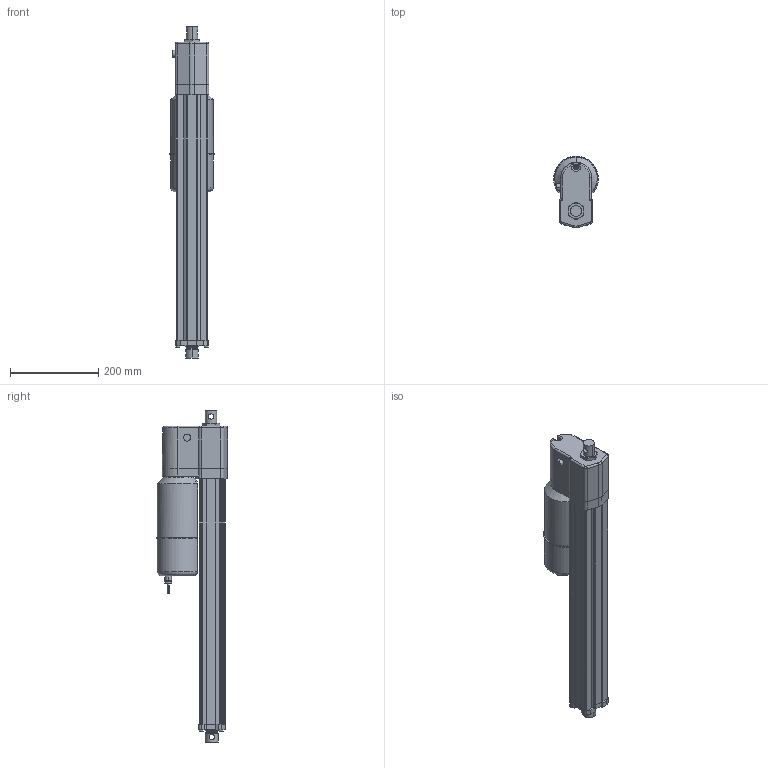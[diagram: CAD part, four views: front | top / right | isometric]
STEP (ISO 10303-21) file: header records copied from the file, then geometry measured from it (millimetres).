
FILE_DESCRIPTION (( 'STEP AP214' ), '1' );
FILE_NAME ('AA22-05B65M-40M0NPO-tollo.step', '2020-04-14T18:52:35', ( '' ), ( '' ), 'SwSTEP 2.0', 'SolidWorks 2010', '' );
FILE_SCHEMA (( 'AUTOMOTIVE_DESIGN' ));
Length unit declared in the file: millimetre
Products named in the file (8): Electrak-LA24-Motor-AA22-05B65M-40M0NPO-tollo_Electrak-LA24-Motor-AA22-05B65M-40M0NPO-tollo; Electrak-LA24-Rear-AA22-05B65M-40M0NPO-tollo_Electrak-LA24-Rear-AA22-05B65M-40M0NPO-tollo; Electrak-LA24-Tube-AA22-05B65M-40M0NPO-tollo_Electrak-LA24-Tube-AA22-05B65M-40M0NPO-tollo; Electrak-LA24-Rod-AA22-05B65M-40M0NPO-tollo_Electrak-LA24-Rod-AA22-05B65M-40M0NPO-tollo; Electrak-LA24-Plate-AA22-05B65M-40M0NPO-tollo_Electrak-LA24-Plate-AA22-05B65M-40M0NPO-tollo; Screw-MFX-H-M5_Screw-MFX-H-M5x24H; Screw-M6S-M5-AA22-05B65M-40M0NPO-tollo_Screw-M6S-M5-AA22-05B65M-40M0NPO-tollo; AA22-05B65M-40M0NPO-tollo
Assembly tree (10 placements, depth 2):
  AA22-05B65M-40M0NPO-tollo
    Screw-M6S-M5-AA22-05B65M-40M0NPO-tollo_Screw-M6S-M5-AA22-05B65M-40M0NPO-tollo  x4
    Electrak-LA24-Plate-AA22-05B65M-40M0NPO-tollo_Electrak-LA24-Plate-AA22-05B65M-40M0NPO-tollo
    Screw-MFX-H-M5_Screw-MFX-H-M5x24H
    Electrak-LA24-Rod-AA22-05B65M-40M0NPO-tollo_Electrak-LA24-Rod-AA22-05B65M-40M0NPO-tollo
    Electrak-LA24-Rear-AA22-05B65M-40M0NPO-tollo_Electrak-LA24-Rear-AA22-05B65M-40M0NPO-tollo
    Electrak-LA24-Tube-AA22-05B65M-40M0NPO-tollo_Electrak-LA24-Tube-AA22-05B65M-40M0NPO-tollo
    Electrak-LA24-Motor-AA22-05B65M-40M0NPO-tollo_Electrak-LA24-Motor-AA22-05B65M-40M0NPO-tollo
Bounding box: 100.99 x 162.5 x 750.7 mm (x, y, z)
Volume: 3575145.6 mm3; surface area: 534137.9 mm2
Topology: 10 solids, 10 shells, 432 faces, 1077 edges, 685 vertices
Faces by surface type: cylinder 178, plane 175, cone 58, torus 16, bspline 3, sphere 2
Entity records: 11619 total; most frequent: CARTESIAN_POINT 2735, DIRECTION 1825, ORIENTED_EDGE 1714, EDGE_CURVE 857, AXIS2_PLACEMENT_3D 668, VERTEX_POINT 550, LINE 489, VECTOR 489
